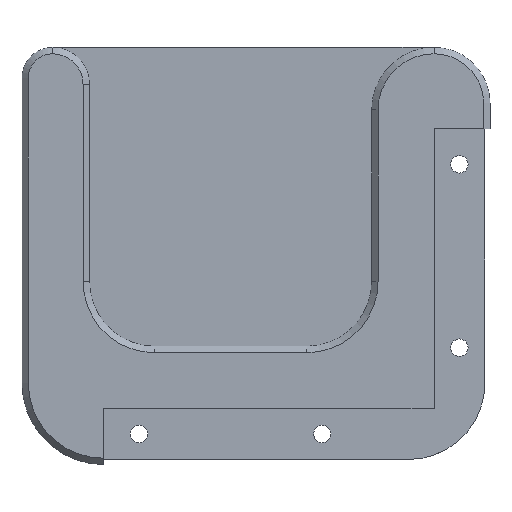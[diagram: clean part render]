
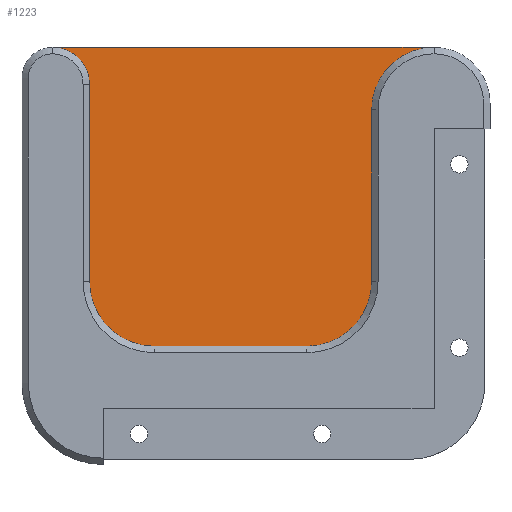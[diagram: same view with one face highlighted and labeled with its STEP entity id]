
A CAD part, top view. The second image highlights one B-rep face of the part: STEP entity #1223.
In plain terms, the highlighted planar face has unit normal (0, 0, 1).
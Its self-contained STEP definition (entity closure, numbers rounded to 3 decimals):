
#64=CIRCLE('',#1285,7.25);
#65=CIRCLE('',#1289,12.75);
#66=CIRCLE('',#1294,12.75);
#67=CIRCLE('',#1297,12.25);
#254=ORIENTED_EDGE('',*,*,#430,.T.);
#255=ORIENTED_EDGE('',*,*,#395,.T.);
#256=ORIENTED_EDGE('',*,*,#397,.T.);
#257=ORIENTED_EDGE('',*,*,#400,.T.);
#258=ORIENTED_EDGE('',*,*,#403,.T.);
#259=ORIENTED_EDGE('',*,*,#406,.T.);
#260=ORIENTED_EDGE('',*,*,#408,.T.);
#261=ORIENTED_EDGE('',*,*,#410,.T.);
#395=EDGE_CURVE('',#507,#509,#64,.F.);
#397=EDGE_CURVE('',#509,#510,#569,.T.);
#400=EDGE_CURVE('',#510,#511,#65,.T.);
#403=EDGE_CURVE('',#511,#512,#574,.T.);
#406=EDGE_CURVE('',#512,#513,#66,.T.);
#408=EDGE_CURVE('',#513,#514,#578,.T.);
#410=EDGE_CURVE('',#514,#506,#67,.F.);
#430=EDGE_CURVE('',#506,#507,#595,.T.);
#506=VERTEX_POINT('',#1738);
#507=VERTEX_POINT('',#1742);
#509=VERTEX_POINT('',#1749);
#510=VERTEX_POINT('',#1753);
#511=VERTEX_POINT('',#1759);
#512=VERTEX_POINT('',#1765);
#513=VERTEX_POINT('',#1771);
#514=VERTEX_POINT('',#1775);
#569=LINE('',#1754,#654);
#574=LINE('',#1766,#659);
#578=LINE('',#1776,#663);
#595=LINE('',#1818,#680);
#654=VECTOR('',#1472,1000.);
#659=VECTOR('',#1487,1000.);
#663=VECTOR('',#1499,1000.);
#680=VECTOR('',#1554,1000.);
#741=EDGE_LOOP('',(#254,#255,#256,#257,#258,#259,#260,#261));
#802=FACE_BOUND('',#741,.T.);
#830=PLANE('',#1315);
#1223=ADVANCED_FACE('',(#802),#830,.T.);
#1285=AXIS2_PLACEMENT_3D('',#1750,#1467,#1468);
#1289=AXIS2_PLACEMENT_3D('',#1760,#1479,#1480);
#1294=AXIS2_PLACEMENT_3D('',#1772,#1494,#1495);
#1297=AXIS2_PLACEMENT_3D('',#1779,#1503,#1504);
#1315=AXIS2_PLACEMENT_3D('',#1819,#1555,#1556);
#1467=DIRECTION('',(0.,0.,1.));
#1468=DIRECTION('',(1.,0.,0.));
#1472=DIRECTION('',(0.,-1.,0.));
#1479=DIRECTION('',(0.,0.,1.));
#1480=DIRECTION('',(1.,0.,0.));
#1487=DIRECTION('',(1.,0.,0.));
#1494=DIRECTION('',(0.,0.,1.));
#1495=DIRECTION('',(1.,0.,0.));
#1499=DIRECTION('',(0.,1.,0.));
#1503=DIRECTION('',(0.,0.,1.));
#1504=DIRECTION('',(1.,0.,0.));
#1554=DIRECTION('',(-1.,0.,0.));
#1555=DIRECTION('',(0.,0.,1.));
#1556=DIRECTION('',(1.,0.,0.));
#1738=CARTESIAN_POINT('',(81.,82.,0.25));
#1742=CARTESIAN_POINT('',(6.,82.,0.25));
#1749=CARTESIAN_POINT('',(13.25,74.75,0.25));
#1750=CARTESIAN_POINT('',(6.,74.75,0.25));
#1753=CARTESIAN_POINT('',(13.25,36.,0.25));
#1754=CARTESIAN_POINT('',(13.25,74.75,0.25));
#1759=CARTESIAN_POINT('',(26.,23.25,0.25));
#1760=CARTESIAN_POINT('',(26.,36.,0.25));
#1765=CARTESIAN_POINT('',(56.,23.25,0.25));
#1766=CARTESIAN_POINT('',(26.,23.25,0.25));
#1771=CARTESIAN_POINT('',(68.75,36.,0.25));
#1772=CARTESIAN_POINT('',(56.,36.,0.25));
#1775=CARTESIAN_POINT('',(68.75,69.75,0.25));
#1776=CARTESIAN_POINT('',(68.75,36.,0.25));
#1779=CARTESIAN_POINT('',(81.,69.75,0.25));
#1818=CARTESIAN_POINT('',(81.,82.,0.25));
#1819=CARTESIAN_POINT('',(0.,0.,0.25));
